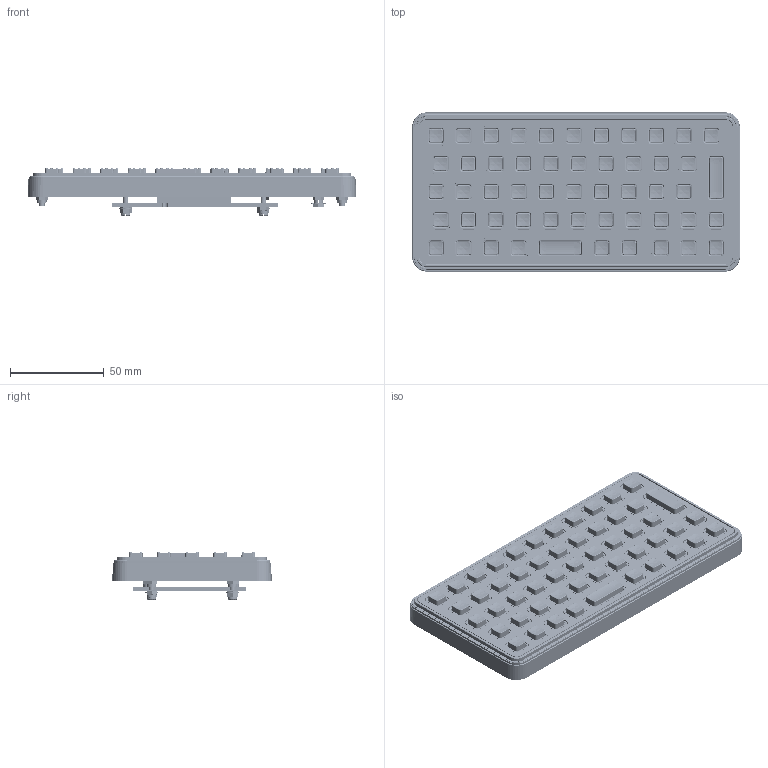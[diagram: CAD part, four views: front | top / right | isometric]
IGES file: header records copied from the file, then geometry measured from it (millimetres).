
Start section: SolidWorks IGES file using analytic representation for surfaces
Global section: file name: C:\Users\rayc\Desktop\1200 KEYBOARD.IGS; native system: SolidWorks 2013; preprocessor: SolidWorks 2013; author: rayc; date: 140425.114416; units: millimetre
Bounding box: 175 x 85 x 25.22 mm (x, y, z)
Surface area: 80776.4 mm2 (no closed solid volume)
Topology: 0 solids, 0 shells, 3043 faces, 28201 edges, 28199 vertices
Faces by surface type: bspline 1891, revolution 1152
